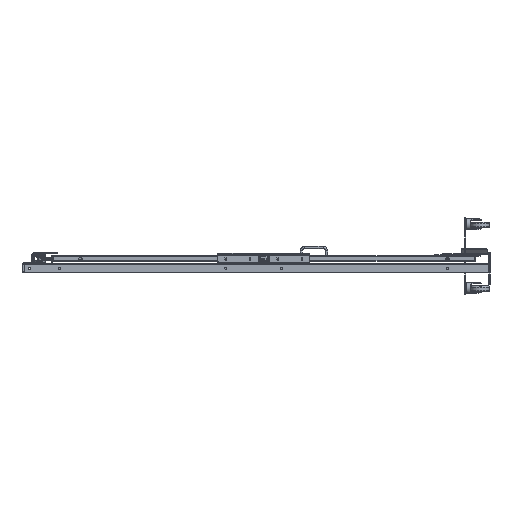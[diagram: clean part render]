
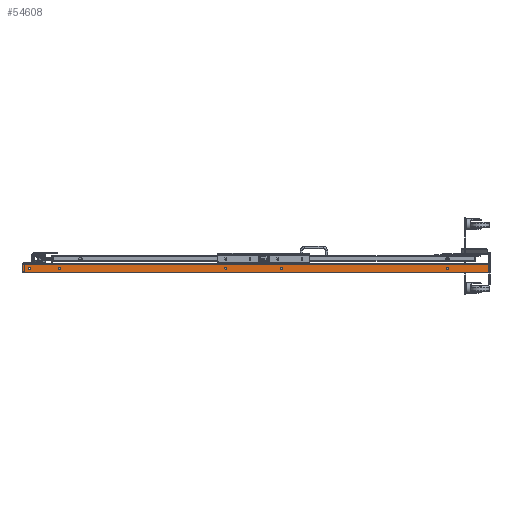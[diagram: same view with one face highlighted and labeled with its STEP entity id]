
A CAD part, left-side view. The second image highlights one B-rep face of the part: STEP entity #54608.
In plain terms, the highlighted planar face has unit normal (-1, 0, 0) as drawn and (0, -1, 0) by its records, which use the part's own axes.
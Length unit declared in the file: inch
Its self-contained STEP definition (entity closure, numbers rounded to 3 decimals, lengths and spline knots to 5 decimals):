
#28 = CARTESIAN_POINT ( 'NONE',  ( 0., -1., -48.75 ) ) ;
#176 = EDGE_LOOP ( 'NONE', ( #57808, #9873, #18085, #397 ) ) ;
#397 = ORIENTED_EDGE ( 'NONE', *, *, #39654, .T. ) ;
#643 = EDGE_LOOP ( 'NONE', ( #19170 ) ) ;
#1330 = VERTEX_POINT ( 'NONE', #28 ) ;
#1632 = ORIENTED_EDGE ( 'NONE', *, *, #74321, .F. ) ;
#2106 = FACE_OUTER_BOUND ( 'NONE', #176, .T. ) ;
#2120 = CIRCLE ( 'NONE', #6278, 0.25 ) ;
#2962 = EDGE_LOOP ( 'NONE', ( #1632 ) ) ;
#4226 = CARTESIAN_POINT ( 'NONE',  ( 0., -1., 5.75 ) ) ;
#5015 = EDGE_LOOP ( 'NONE', ( #24918 ) ) ;
#6278 = AXIS2_PLACEMENT_3D ( 'NONE', #68758, #49603, #37416 ) ;
#7650 = VECTOR ( 'NONE', #43294, 39.37008 ) ;
#8576 = CARTESIAN_POINT ( 'NONE',  ( -0.8506, -1., 50.5 ) ) ;
#9873 = ORIENTED_EDGE ( 'NONE', *, *, #66021, .F. ) ;
#11454 = VECTOR ( 'NONE', #51903, 39.37008 ) ;
#13449 = AXIS2_PLACEMENT_3D ( 'NONE', #67711, #54653, #81201 ) ;
#14371 = VERTEX_POINT ( 'NONE', #8576 ) ;
#15162 = FACE_BOUND ( 'NONE', #5015, .T. ) ;
#15762 = VERTEX_POINT ( 'NONE', #36564 ) ;
#17831 = DIRECTION ( 'NONE',  ( 1., 0., 0. ) ) ;
#17859 = CARTESIAN_POINT ( 'NONE',  ( 0., -1., 5.5 ) ) ;
#18085 = ORIENTED_EDGE ( 'NONE', *, *, #19448, .F. ) ;
#19170 = ORIENTED_EDGE ( 'NONE', *, *, #42926, .F. ) ;
#19448 = EDGE_CURVE ( 'NONE', #14371, #60716, #45609, .T. ) ;
#20078 = CARTESIAN_POINT ( 'NONE',  ( -0.8506, -1., -50.5 ) ) ;
#21458 = CARTESIAN_POINT ( 'NONE',  ( 0.8506, -1., -50.5 ) ) ;
#22519 = LINE ( 'NONE', #35932, #65418 ) ;
#23910 = AXIS2_PLACEMENT_3D ( 'NONE', #47083, #79282, #59242 ) ;
#24918 = ORIENTED_EDGE ( 'NONE', *, *, #36028, .F. ) ;
#26783 = ORIENTED_EDGE ( 'NONE', *, *, #70295, .F. ) ;
#26872 = DIRECTION ( 'NONE',  ( 0., 0., 1. ) ) ;
#29819 = CARTESIAN_POINT ( 'NONE',  ( -0.8506, -1., 50.5 ) ) ;
#29909 = AXIS2_PLACEMENT_3D ( 'NONE', #81652, #59883, #26872 ) ;
#32451 = VECTOR ( 'NONE', #17831, 39.37008 ) ;
#35932 = CARTESIAN_POINT ( 'NONE',  ( -0.8506, -1., -50.5 ) ) ;
#36028 = EDGE_CURVE ( 'NONE', #15762, #15762, #62877, .T. ) ;
#36564 = CARTESIAN_POINT ( 'NONE',  ( 0., -1., -6.25 ) ) ;
#36778 = CARTESIAN_POINT ( 'NONE',  ( 0., -1., 41.75 ) ) ;
#37416 = DIRECTION ( 'NONE',  ( 0., 0., 1. ) ) ;
#37980 = CARTESIAN_POINT ( 'NONE',  ( 0.8506, -1., 50.5 ) ) ;
#39654 = EDGE_CURVE ( 'NONE', #14371, #43910, #80425, .T. ) ;
#39681 = LINE ( 'NONE', #37980, #11454 ) ;
#42890 = VERTEX_POINT ( 'NONE', #36778 ) ;
#42926 = EDGE_CURVE ( 'NONE', #1330, #1330, #82893, .T. ) ;
#43294 = DIRECTION ( 'NONE',  ( 0., 0., -1. ) ) ;
#43910 = VERTEX_POINT ( 'NONE', #20078 ) ;
#44318 = CARTESIAN_POINT ( 'NONE',  ( 0.8506, -1., 50.5 ) ) ;
#45609 = LINE ( 'NONE', #46042, #32451 ) ;
#45766 = DIRECTION ( 'NONE',  ( 0., 0., 1. ) ) ;
#46042 = CARTESIAN_POINT ( 'NONE',  ( -0.8506, -1., 50.5 ) ) ;
#46862 = FACE_BOUND ( 'NONE', #2962, .T. ) ;
#47083 = CARTESIAN_POINT ( 'NONE',  ( 0., -1., -42.5 ) ) ;
#48155 = FACE_BOUND ( 'NONE', #643, .T. ) ;
#49603 = DIRECTION ( 'NONE',  ( 0., -1., 0. ) ) ;
#51903 = DIRECTION ( 'NONE',  ( 0., 0., -1. ) ) ;
#54608 = ADVANCED_FACE ( 'NONE', ( #48155, #75111, #46862, #15162, #61617, #2106 ), #55107, .F. ) ;
#54653 = DIRECTION ( 'NONE',  ( 0., -1., 0. ) ) ;
#55107 = PLANE ( 'NONE',  #29909 ) ;
#55921 = DIRECTION ( 'NONE',  ( 1., 0., 0. ) ) ;
#57808 = ORIENTED_EDGE ( 'NONE', *, *, #81695, .T. ) ;
#59242 = DIRECTION ( 'NONE',  ( 0., 0., 1. ) ) ;
#59625 = DIRECTION ( 'NONE',  ( 0., -1., 0. ) ) ;
#59883 = DIRECTION ( 'NONE',  ( 0., 1., 0. ) ) ;
#60716 = VERTEX_POINT ( 'NONE', #44318 ) ;
#61617 = FACE_BOUND ( 'NONE', #77219, .T. ) ;
#62877 = CIRCLE ( 'NONE', #83710, 0.25 ) ;
#63591 = VERTEX_POINT ( 'NONE', #69260 ) ;
#63914 = DIRECTION ( 'NONE',  ( 0., 0., 1. ) ) ;
#64776 = DIRECTION ( 'NONE',  ( 0., -1., 0. ) ) ;
#64938 = CIRCLE ( 'NONE', #73266, 0.25 ) ;
#65418 = VECTOR ( 'NONE', #55921, 39.37008 ) ;
#65507 = ORIENTED_EDGE ( 'NONE', *, *, #83450, .F. ) ;
#66021 = EDGE_CURVE ( 'NONE', #60716, #82353, #39681, .T. ) ;
#66766 = EDGE_LOOP ( 'NONE', ( #26783 ) ) ;
#67711 = CARTESIAN_POINT ( 'NONE',  ( 0., -1., -49. ) ) ;
#68758 = CARTESIAN_POINT ( 'NONE',  ( 0., -1., 41.5 ) ) ;
#69260 = CARTESIAN_POINT ( 'NONE',  ( 0., -1., -42.25 ) ) ;
#70295 = EDGE_CURVE ( 'NONE', #42890, #42890, #2120, .T. ) ;
#73266 = AXIS2_PLACEMENT_3D ( 'NONE', #17859, #64776, #63914 ) ;
#74321 = EDGE_CURVE ( 'NONE', #84207, #84207, #64938, .T. ) ;
#75111 = FACE_BOUND ( 'NONE', #66766, .T. ) ;
#77219 = EDGE_LOOP ( 'NONE', ( #65507 ) ) ;
#79282 = DIRECTION ( 'NONE',  ( 0., -1., 0. ) ) ;
#80114 = CARTESIAN_POINT ( 'NONE',  ( 0., -1., -6.5 ) ) ;
#80425 = LINE ( 'NONE', #29819, #7650 ) ;
#81201 = DIRECTION ( 'NONE',  ( 0., 0., 1. ) ) ;
#81652 = CARTESIAN_POINT ( 'NONE',  ( -0.8506, -1., 50.5 ) ) ;
#81695 = EDGE_CURVE ( 'NONE', #43910, #82353, #22519, .T. ) ;
#82196 = CIRCLE ( 'NONE', #23910, 0.25 ) ;
#82353 = VERTEX_POINT ( 'NONE', #21458 ) ;
#82893 = CIRCLE ( 'NONE', #13449, 0.25 ) ;
#83450 = EDGE_CURVE ( 'NONE', #63591, #63591, #82196, .T. ) ;
#83710 = AXIS2_PLACEMENT_3D ( 'NONE', #80114, #59625, #45766 ) ;
#84207 = VERTEX_POINT ( 'NONE', #4226 ) ;
